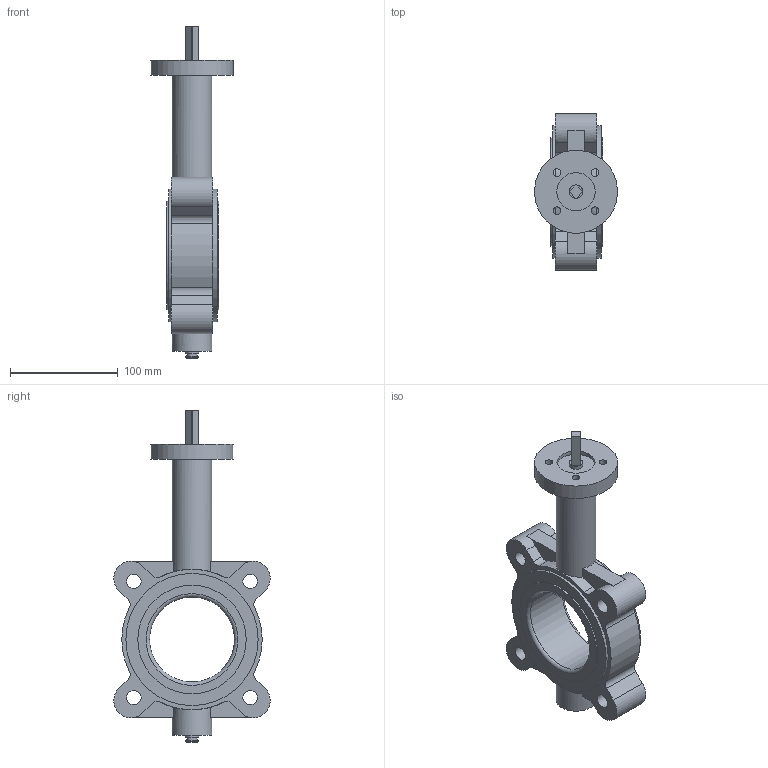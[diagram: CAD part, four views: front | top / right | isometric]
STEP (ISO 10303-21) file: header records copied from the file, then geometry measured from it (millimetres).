
FILE_DESCRIPTION((' '),'2;1');
FILE_NAME('N:\Technical Support\Private\Jomar Valve CAD\Actuation\Butterfly\600-03DS_BFusionCopy.stp','2017-06-05T15:42:42',(' '),(' '),' ','ACIS',' ');
FILE_SCHEMA(('CONFIG_CONTROL_DESIGN'));
Length unit declared in the file: inch
Products named in the file (3): N:\Technical Support\Private\Jomar Valve CAD\Actuation\Butterfly\600-03DS_BFusionCopy.stp; Body1; Body2
Assembly tree (2 placements, depth 2):
  N:\Technical Support\Private\Jomar Valve CAD\Actuation\Butterfly\600-03DS_BFusionCopy.stp
    Body1
    Body2
Bounding box: 76.67 x 144.97 x 307.74 mm (x, y, z)
Volume: 714093.8 mm3; surface area: 97752.5 mm2
Topology: 2 solids, 2 shells, 93 faces, 247 edges, 167 vertices
Faces by surface type: plane 47, cylinder 41, torus 2, bspline 2, cone 1
Full cylindrical faces by diameter (mm): 7.112 x4, 9.474 x1, 12.446 x1, 12.548 x2, 13.335 x2, 35.433 x1, 36.83 x2, 76.962 x1, 78.74 x1, 100.584 x2, 122.555 x2
Entity records: 3208 total; most frequent: CARTESIAN_POINT 548, DIRECTION 508, ORIENTED_EDGE 420, EDGE_CURVE 210, AXIS2_PLACEMENT_3D 206, VERTEX_POINT 154, EDGE_LOOP 144, CIRCLE 110
